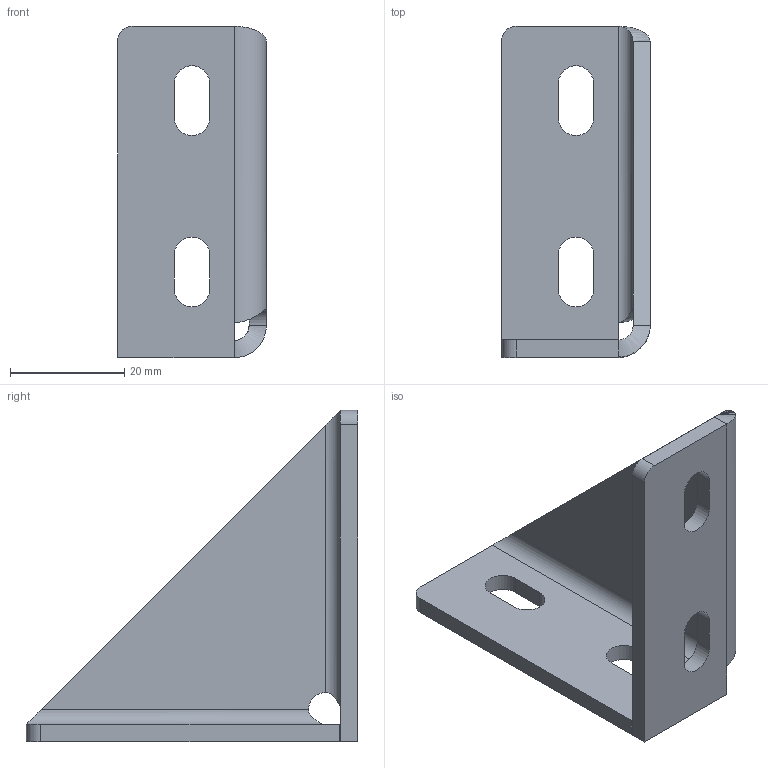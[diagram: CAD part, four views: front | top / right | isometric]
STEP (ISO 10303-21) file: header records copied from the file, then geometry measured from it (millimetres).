
FILE_DESCRIPTION (( 'STEP AP214' ), '1' );
FILE_NAME ('8104s-S3.STEP', '2016-07-19T07:47:53', ( '' ), ( '' ), 'SwSTEP 2.0', 'SolidWorks 2014', '' );
FILE_SCHEMA (( 'AUTOMOTIVE_DESIGN' ));
Length unit declared in the file: millimetre
Products named in the file (2): 8104s-S3
Bounding box: 26 x 58 x 58 mm (x, y, z)
Volume: 11705.4 mm3; surface area: 9095.2 mm2
Topology: 1 solids, 1 shells, 44 faces, 110 edges, 68 vertices
Faces by surface type: plane 23, cylinder 17, bspline 4
Entity records: 1461 total; most frequent: CARTESIAN_POINT 370, ORIENTED_EDGE 220, DIRECTION 208, EDGE_CURVE 110, VECTOR 72, LINE 72, VERTEX_POINT 68, AXIS2_PLACEMENT_3D 68
